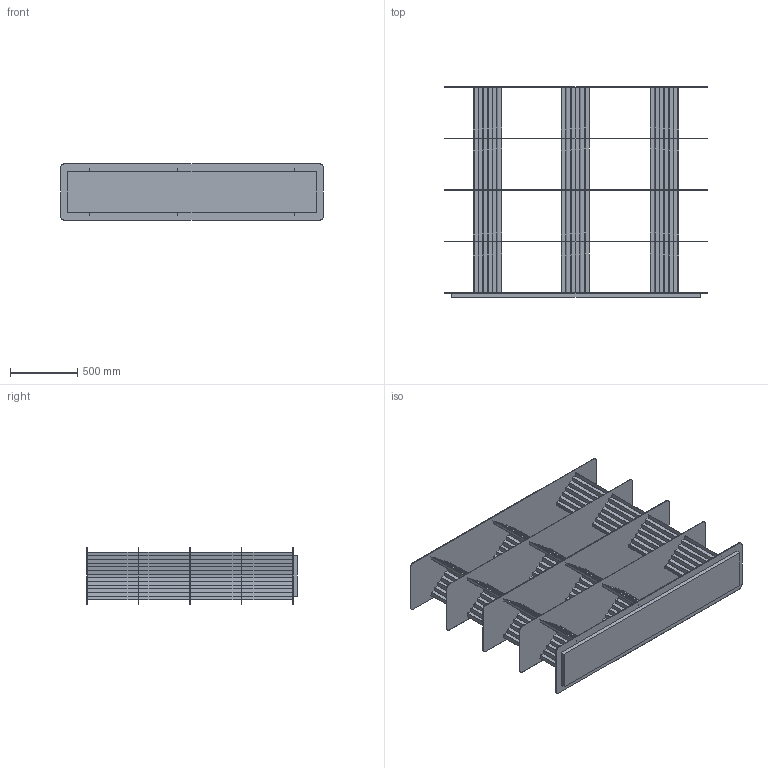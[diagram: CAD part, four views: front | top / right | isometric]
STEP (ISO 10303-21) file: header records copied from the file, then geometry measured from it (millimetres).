
FILE_DESCRIPTION (( 'STEP AP203' ), '1' );
FILE_NAME ('PLEC SHELVES M 4 NIVELES.STEP', '2025-05-08T10:06:07', ( '' ), ( '' ), 'SwSTEP 2.0', 'SolidWorks 2020', '' );
FILE_SCHEMA (( 'CONFIG_CONTROL_DESIGN' ));
Length unit declared in the file: millimetre
Products named in the file (1): PLEC SHELVES M 4 NIVELES
Bounding box: 1961 x 1571 x 420 mm (x, y, z)
Volume: 42143140.8 mm3; surface area: 16187460.7 mm2
Topology: 18 solids, 18 shells, 704 faces, 2004 edges, 1336 vertices
Faces by surface type: plane 684, cylinder 20
Entity records: 22491 total; most frequent: CARTESIAN_POINT 4045, ORIENTED_EDGE 4008, DIRECTION 3454, EDGE_CURVE 2004, LINE 1964, VECTOR 1964, VERTEX_POINT 1336, AXIS2_PLACEMENT_3D 745
